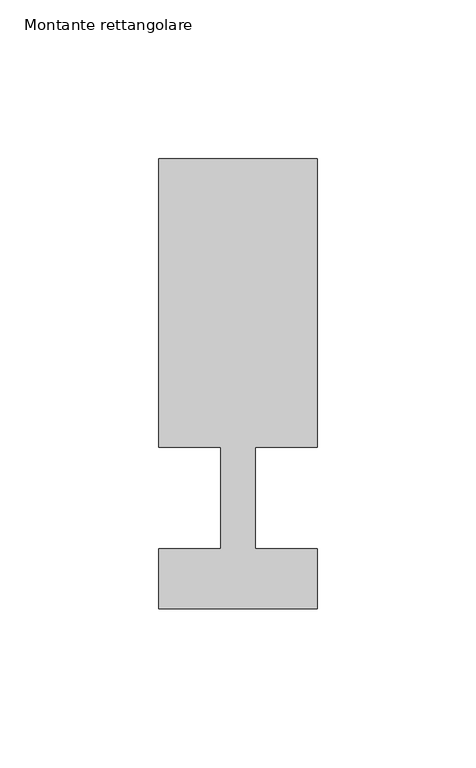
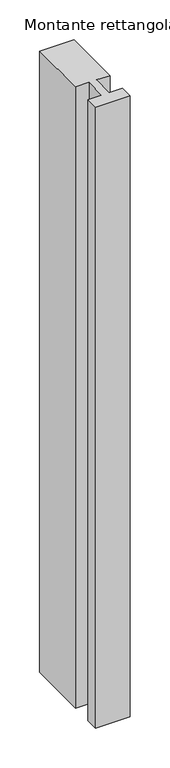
"""IFC4 building model written with IfcOpenShell, lengths in millimetres: member geometry, Montante rettangolare : Aluk_SL50_Montante K731_vetro 32."""

import ifcopenshell
import ifcopenshell.guid

model = None  # the IFC model being written
_history = None  # IfcOwnerHistory: only IFC2X3 demands one
_inside = {}  # id of a spatial element -> (the spatial element, [elements in it])
_under = {}  # id of a project, library or spatial element -> (it, [spatial elements below it])
_declared = {}  # id of a project -> (the project, [libraries it declares])
_typed = {}  # id of a type object -> (the type object, [elements of that type])
_made_of = {}  # id of a material, layer set ... -> (it, [elements and type objects made of it])


def new_model(schema):
    """Start an empty IFC model of exactly this schema.

    Asked for "IFC4X3", IfcOpenShell would pick the latest addendum, in which some entities
    have other attributes; the version numbers below select the first issue.
    IFC2X3 requires an IfcOwnerHistory on every rooted entity: one is made here for all.
    """
    global model, _history
    if schema == "IFC4X3":
        model = ifcopenshell.file(schema_version=(4, 3, 0, 0))
    else:
        model = ifcopenshell.file(schema=schema)
    _inside.clear()
    _under.clear()
    _declared.clear()
    _typed.clear()
    _made_of.clear()
    _history = None
    if model.schema == "IFC2X3":
        org = make("IfcOrganization", Name="unknown")
        user = make(
            "IfcPersonAndOrganization",
            ThePerson=make("IfcPerson", FamilyName="unknown"),
            TheOrganization=org,
        )
        app = make(
            "IfcApplication",
            ApplicationDeveloper=org,
            Version="unknown",
            ApplicationFullName="unknown",
            ApplicationIdentifier="unknown",
        )
        _history = make(
            "IfcOwnerHistory",
            OwningUser=user,
            OwningApplication=app,
            ChangeAction="ADDED",
            CreationDate=0,
        )
    return model


def make(cls, **values):
    """One entity of the class cls with the attributes given. An attribute that is None is left unset."""
    return model.create_entity(
        cls, **{name: value for name, value in values.items() if value is not None}
    )


def rooted(cls, **values):
    """An entity with a GlobalId (a new one), such as an element, a storey or a relation."""
    return make(cls, GlobalId=ifcopenshell.guid.new(), OwnerHistory=_history, **values)


def si_unit(unit_type, name, prefix=None):
    """IfcSIUnit, for example si_unit("LENGTHUNIT", "METRE", prefix="MILLI")."""
    return make("IfcSIUnit", UnitType=unit_type, Prefix=prefix, Name=name)


def assignment(units):
    """IfcUnitAssignment: the units of a project."""
    return None if units is None else make("IfcUnitAssignment", Units=units)


def point(xyz):
    """IfcCartesianPoint."""
    return None if xyz is None else make("IfcCartesianPoint", Coordinates=xyz)


def direction(xyz):
    """IfcDirection."""
    return None if xyz is None else make("IfcDirection", DirectionRatios=xyz)


def frame(location, z_axis=None, x_axis=None):
    """IfcAxis2Placement3D, a coordinate frame: its origin and axes. An axis left out is left unset."""
    return make(
        "IfcAxis2Placement3D",
        Location=point(location),
        Axis=direction(z_axis),
        RefDirection=direction(x_axis),
    )


def origin():
    """The frame at (0, 0, 0) with its axes left unset."""
    return frame((0.0, 0.0, 0.0))


def place(relative_to, where):
    """IfcLocalPlacement: puts the frame where relative to a parent placement (None: the world)."""
    return make(
        "IfcLocalPlacement", PlacementRelTo=relative_to, RelativePlacement=where
    )


def context(
    kind, dimensions, precision=None, world=None, true_north=None, identifier=None
):
    """IfcGeometricRepresentationContext, for example the 3D "Model" context."""
    return make(
        "IfcGeometricRepresentationContext",
        ContextIdentifier=identifier,
        ContextType=kind,
        CoordinateSpaceDimension=dimensions,
        Precision=precision,
        WorldCoordinateSystem=world,
        TrueNorth=true_north,
    )


def project(units=None, contexts=None):
    """IfcProject with its units and contexts."""
    return rooted(
        "IfcProject",
        Name="project",
        RepresentationContexts=contexts,
        UnitsInContext=assignment(units),
    )


def spatial(cls, under=None, at=None, **own):
    """A site, building, storey or space (cls), placed at a placement, below another one or the project."""
    s = rooted(cls, ObjectPlacement=at, **own)
    if under is not None:
        _under.setdefault(under.id(), (under, []))[1].append(s)
    return s


def polyline(points):
    """IfcPolyline through the points."""
    return make("IfcPolyline", Points=[point(p) for p in points])


def outline(outer, holes=None, kind="AREA"):
    """IfcArbitraryClosedProfileDef: a profile drawn as a closed curve; with holes, ...WithVoids."""
    if holes is None:
        return make("IfcArbitraryClosedProfileDef", ProfileType=kind, OuterCurve=outer)
    return make(
        "IfcArbitraryProfileDefWithVoids",
        ProfileType=kind,
        OuterCurve=outer,
        InnerCurves=holes,
    )


def extrude(swept, where, along, depth):
    """IfcExtrudedAreaSolid: the profile swept, set in the frame where, extruded along a direction by depth."""
    return make(
        "IfcExtrudedAreaSolid",
        SweptArea=swept,
        Position=where,
        ExtrudedDirection=direction(along),
        Depth=depth,
    )


def shape(context_of_items, identifier, shape_type, items):
    """IfcShapeRepresentation: the items that make up one representation, for example the "Body"."""
    return make(
        "IfcShapeRepresentation",
        ContextOfItems=context_of_items,
        RepresentationIdentifier=identifier,
        RepresentationType=shape_type,
        Items=items,
    )


def source(mapping_origin, context_of_items, identifier, shape_type, items):
    """IfcRepresentationMap: a shape defined once, which mapped items show again and again."""
    return make(
        "IfcRepresentationMap",
        MappingOrigin=mapping_origin,
        MappedRepresentation=shape(context_of_items, identifier, shape_type, items),
    )


def transform(
    local_origin,
    x_axis=None,
    y_axis=None,
    z_axis=None,
    scale=None,
    scale2=None,
    scale3=None,
    uniform=True,
):
    """IfcCartesianTransformationOperator3D, or its non-uniform kind. x_axis, y_axis, z_axis: its Axis1, 2, 3."""
    if uniform:
        return make(
            "IfcCartesianTransformationOperator3D",
            Axis1=direction(x_axis),
            Axis2=direction(y_axis),
            LocalOrigin=point(local_origin),
            Scale=scale,
            Axis3=direction(z_axis),
        )
    return make(
        "IfcCartesianTransformationOperator3DnonUniform",
        Axis1=direction(x_axis),
        Axis2=direction(y_axis),
        LocalOrigin=point(local_origin),
        Scale=scale,
        Axis3=direction(z_axis),
        Scale2=scale2,
        Scale3=scale3,
    )


def mapped(mapping_source, mapping_target):
    """IfcMappedItem: shows the shape of a source again, moved by a transform."""
    return make(
        "IfcMappedItem", MappingSource=mapping_source, MappingTarget=mapping_target
    )


def made_of(thing, what):
    """Note that an element or type object is made of a material, layer set ...; save() writes the relation."""
    if what is not None:
        _made_of.setdefault(what.id(), (what, []))[1].append(thing)
    return thing


def element(
    cls,
    number,
    at=None,
    inside=None,
    cuts=None,
    type_object=None,
    material=None,
    context=None,
    identifier="Body",
    shape_type=None,
    held_by="IfcProductDefinitionShape",
    body=None,
    shapes=None,
    **own,
):
    """One element of the class cls, such as IfcWall. Its Tag is "e" and its number.

    at: its placement. inside: the storey or other place that contains it. cuts: it is an
    opening in that element (IfcRelVoidsElement). A single representation is given by context,
    identifier, shape_type and body (its items); several are given by shapes. held_by: the class
    of the entity that holds the representations. save() writes the other relations.
    """
    e = rooted(cls, Tag="e%d" % number, ObjectPlacement=at, **own)
    if body is not None:
        shapes = [shape(context, identifier, shape_type, body)]
    if shapes is not None:
        e.Representation = make(held_by, Representations=shapes)
    if inside is not None:
        _inside.setdefault(inside.id(), (inside, []))[1].append(e)
    if cuts is not None:
        rooted(
            "IfcRelVoidsElement", RelatingBuildingElement=cuts, RelatedOpeningElement=e
        )
    if type_object is not None:
        _typed.setdefault(type_object.id(), (type_object, []))[1].append(e)
    return made_of(e, material)


def aggregate(whole, parts):
    """IfcRelAggregates: a whole, such as a stair, and the parts it consists of."""
    return rooted("IfcRelAggregates", RelatingObject=whole, RelatedObjects=parts)


def save(model, path):
    """Write the relations noted so far, then the file.

    IfcRelAggregates (storeys below a building ...), IfcRelContainedInSpatialStructure (elements
    in a storey), IfcRelDefinesByType, IfcRelAssociatesMaterial and IfcRelDeclares: one each for
    every whole, place, type object, material and project.
    """
    for whole, parts in _under.values():
        aggregate(whole, parts)
    for where, things in _inside.values():
        rooted(
            "IfcRelContainedInSpatialStructure",
            RelatedElements=things,
            RelatingStructure=where,
        )
    for kind, things in _typed.values():
        rooted("IfcRelDefinesByType", RelatedObjects=things, RelatingType=kind)
    for what, things in _made_of.values():
        rooted("IfcRelAssociatesMaterial", RelatedObjects=things, RelatingMaterial=what)
    for by, libraries in _declared.values():
        rooted("IfcRelDeclares", RelatingContext=by, RelatedDefinitions=libraries)
    model.write(path)


def montante_rettangolare_6fef9e3c(model_context):
    return source(origin(), model_context, "Body", "SweptSolid", [
        extrude(outline(polyline([(-24.9993567, 107.0), (25.0, 107.0), (25.0, 16.0), (5.5, 16.0), (5.5, -16.0), (24.9705138, -16.0), (24.9705138, -35.0019341), (-25.0435991, -35.0019341), (-25.0435991, -16.0), (-5.5, -16.0), (-5.5, 16.0), (-24.9993567, 16.0), (-24.9993567, 107.0)])), frame((0.0, 0.0, -956.0347301), z_axis=(0.0, 0.0, 1.0), x_axis=(1.0, 0.0, 0.0)), (0.0, 0.0, 1.0), 956.0347301),
    ])


if __name__ == "__main__":
    model = new_model("IFC4")
    model_context = context("Model", 3, world=origin())
    ifc_project = project(units=[si_unit("LENGTHUNIT", "METRE", prefix="MILLI")], contexts=[model_context])
    site = spatial("IfcSite", under=ifc_project)
    building = spatial("IfcBuilding", under=site)
    placement = place(None, origin())
    montante_rettangolare_shape = montante_rettangolare_6fef9e3c(model_context)
    element("IfcMember", 1, ObjectType="Montante rettangolare : Aluk_SL50_Montante K731_vetro 32", at=placement, inside=building, context=model_context, shape_type="MappedRepresentation", body=[
        mapped(montante_rettangolare_shape, transform((0.0, 0.0, 0.0), x_axis=(1.0, 0.0, 0.0), y_axis=(0.0, 1.0, 0.0), z_axis=(0.0, 0.0, 1.0))),
    ])
    save(model, "model.ifc")
